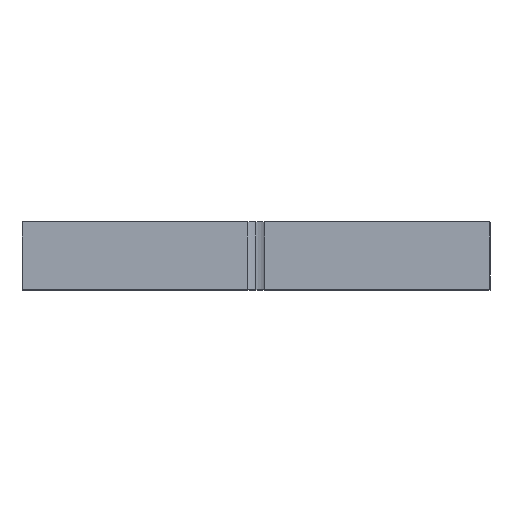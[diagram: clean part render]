
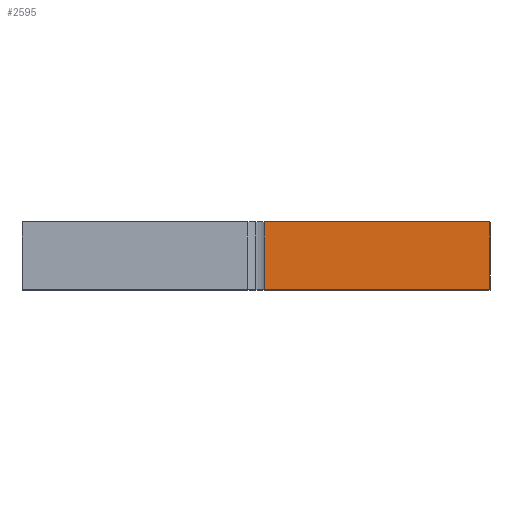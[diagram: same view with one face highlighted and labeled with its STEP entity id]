
A CAD part, top view. The second image highlights one B-rep face of the part: STEP entity #2595.
In plain terms, the highlighted planar face has unit normal (0, 0, 1).
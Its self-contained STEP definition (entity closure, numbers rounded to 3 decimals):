
#69 = EDGE_CURVE ( 'NONE', #4982, #1516, #3638, .T. ) ;
#238 = EDGE_LOOP ( 'NONE', ( #4502, #1228, #5989, #2266 ) ) ;
#311 = EDGE_CURVE ( 'NONE', #5304, #1516, #3242, .T. ) ;
#379 = FACE_OUTER_BOUND ( 'NONE', #238, .T. ) ;
#472 = DIRECTION ( 'NONE',  ( 0., 0., 1. ) ) ;
#1090 = DIRECTION ( 'NONE',  ( 0., 1., 0. ) ) ;
#1228 = ORIENTED_EDGE ( 'NONE', *, *, #69, .T. ) ;
#1516 = VERTEX_POINT ( 'NONE', #4973 ) ;
#1687 = DIRECTION ( 'NONE',  ( 1., 0., 0. ) ) ;
#1730 = CARTESIAN_POINT ( 'NONE',  ( 0., 0., 0. ) ) ;
#1832 = VERTEX_POINT ( 'NONE', #6199 ) ;
#1868 = CARTESIAN_POINT ( 'NONE',  ( -50., 7.2, 0. ) ) ;
#2053 = DIRECTION ( 'NONE',  ( 1., 0., 0. ) ) ;
#2055 = VECTOR ( 'NONE', #5960, 1000. ) ;
#2134 = LINE ( 'NONE', #4445, #5983 ) ;
#2266 = ORIENTED_EDGE ( 'NONE', *, *, #3652, .T. ) ;
#2595 = ADVANCED_FACE ( 'NONE', ( #379 ), #4110, .T. ) ;
#3242 = LINE ( 'NONE', #1868, #2055 ) ;
#3638 = LINE ( 'NONE', #5616, #6519 ) ;
#3652 = EDGE_CURVE ( 'NONE', #5304, #1832, #2134, .T. ) ;
#4100 = VECTOR ( 'NONE', #1687, 1000. ) ;
#4110 = PLANE ( 'NONE',  #5378 ) ;
#4445 = CARTESIAN_POINT ( 'NONE',  ( -24.083, 0., 0. ) ) ;
#4502 = ORIENTED_EDGE ( 'NONE', *, *, #4609, .T. ) ;
#4609 = EDGE_CURVE ( 'NONE', #1832, #4982, #5415, .T. ) ;
#4973 = CARTESIAN_POINT ( 'NONE',  ( 0., 7.2, 0. ) ) ;
#4982 = VERTEX_POINT ( 'NONE', #5677 ) ;
#5080 = CARTESIAN_POINT ( 'NONE',  ( 0., 0., 0. ) ) ;
#5304 = VERTEX_POINT ( 'NONE', #5853 ) ;
#5348 = DIRECTION ( 'NONE',  ( 0., -1., 0. ) ) ;
#5378 = AXIS2_PLACEMENT_3D ( 'NONE', #5080, #472, #2053 ) ;
#5415 = LINE ( 'NONE', #1730, #4100 ) ;
#5616 = CARTESIAN_POINT ( 'NONE',  ( 0., -1.5, 0. ) ) ;
#5677 = CARTESIAN_POINT ( 'NONE',  ( 0., 0., 0. ) ) ;
#5853 = CARTESIAN_POINT ( 'NONE',  ( -24.083, 7.2, 0. ) ) ;
#5960 = DIRECTION ( 'NONE',  ( 1., 0., 0. ) ) ;
#5983 = VECTOR ( 'NONE', #5348, 1000. ) ;
#5989 = ORIENTED_EDGE ( 'NONE', *, *, #311, .F. ) ;
#6199 = CARTESIAN_POINT ( 'NONE',  ( -24.083, 0., 0. ) ) ;
#6519 = VECTOR ( 'NONE', #1090, 1000. ) ;
